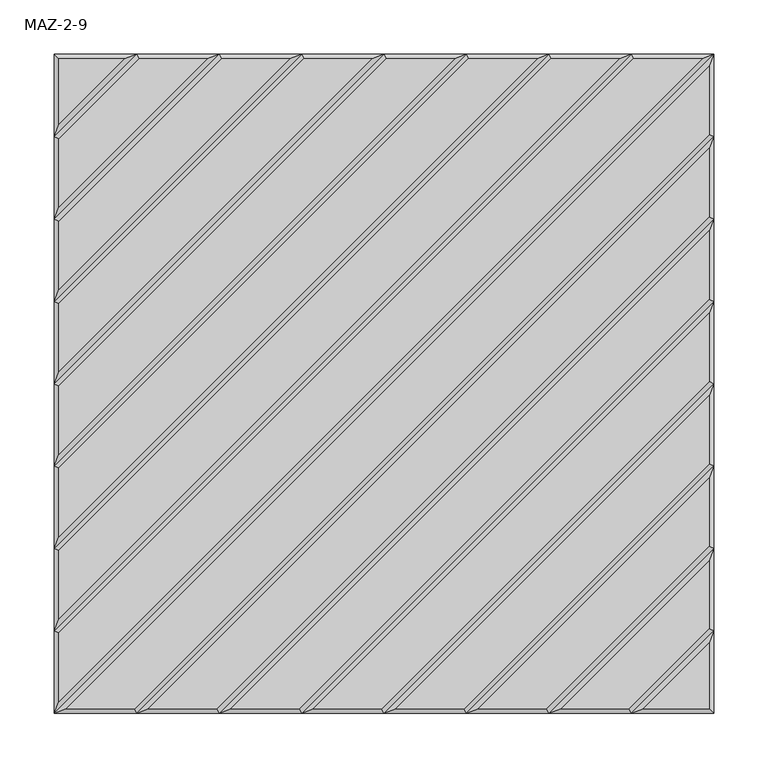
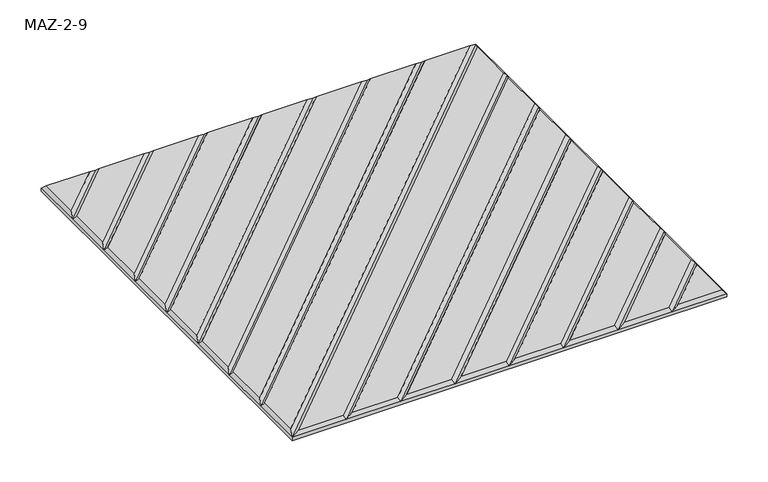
"""IFC4 building model written with IfcOpenShell, lengths in millimetres: proxy geometry, Turf_Wall Tile_Maze : MAZ-2-9."""

from ifc_helpers import new_model, si_unit, origin, place, context, project, spatial, faceted_brep, source, transform, mapped, element, save


def maz_2_9_f5754bbc(model_context):
    return source(origin(), model_context, "Body", "Brep", [
        faceted_brep([(-304.8, 228.6, 10.85), (-304.8, 304.8, 10.85), (-304.8, 304.8, 6.35), (-304.8, -304.8, 6.35), (-304.8, -304.8, 10.85), (-304.8, -228.6, 10.85), (-304.8, -152.4, 10.85), (-304.8, -76.2, 10.85), (-304.8, 0.0, 10.85), (-304.8, 76.2, 10.85), (-304.8, 152.4, 10.85), (228.6, 304.8, 10.85), (304.8, 304.8, 10.85), (304.8, 304.8, 6.35), (-228.6, 304.8, 10.85), (-152.4, 304.8, 10.85), (-76.2, 304.8, 10.85), (0.0, 304.8, 10.85), (76.2, 304.8, 10.85), (152.4, 304.8, 10.85), (300.3, -300.3, 15.35), (300.3, -239.463961, 15.35), (239.463961, -300.3, 15.35), (304.8, -304.8, 6.35), (-300.3, 226.736039, 15.35), (-226.736039, 300.3, 15.35), (-239.463961, 300.3, 15.35), (-300.3, 239.463961, 15.35), (304.8, -228.6, 10.85), (228.6, -304.8, 10.85), (300.3, -226.736039, 15.35), (226.736039, -300.3, 15.35), (-293.936039, -300.3, 15.35), (300.3, 293.936039, 15.35), (217.736039, 300.3, 15.35), (-300.3, -217.736039, 15.35), (152.4, -304.8, 10.85), (304.8, -152.4, 10.85), (300.3, -150.536039, 15.35), (150.536039, -300.3, 15.35), (-300.3, 150.536039, 15.35), (-150.536039, 300.3, 15.35), (-10.863961, 300.3, 15.35), (-300.3, 10.863961, 15.35), (-76.2, -304.8, 10.85), (304.8, 76.2, 10.85), (300.3, 78.063961, 15.35), (-78.063961, -300.3, 15.35), (-152.4, -304.8, 10.85), (304.8, 152.4, 10.85), (300.3, 154.263961, 15.35), (-154.263961, -300.3, 15.35), (163.263961, -300.3, 15.35), (300.3, -163.263961, 15.35), (-300.3, 300.3, 15.35), (-300.3, -293.936039, 15.35), (293.936039, 300.3, 15.35), (230.463961, 300.3, 15.35), (-300.3, -230.463961, 15.35), (154.263961, 300.3, 15.35), (-300.3, -154.263961, 15.35), (300.3, 141.536039, 15.35), (-141.536039, -300.3, 15.35), (78.063961, 300.3, 15.35), (-300.3, -78.063961, 15.35), (-300.3, -141.536039, 15.35), (141.536039, 300.3, 15.35), (-1.863961, -300.3, 15.35), (300.3, 1.863961, 15.35), (300.3, 65.336039, 15.35), (-65.336039, -300.3, 15.35), (1.863961, 300.3, 15.35), (-300.3, -1.863961, 15.35), (-300.3, -65.336039, 15.35), (65.336039, 300.3, 15.35), (-74.336039, 300.3, 15.35), (-300.3, 74.336039, 15.35), (-300.3, 87.063961, 15.35), (-87.063961, 300.3, 15.35), (-300.3, 163.263961, 15.35), (-163.263961, 300.3, 15.35), (74.336039, -300.3, 15.35), (300.3, -74.336039, 15.35), (300.3, -10.863961, 15.35), (10.863961, -300.3, 15.35), (300.3, -87.063961, 15.35), (87.063961, -300.3, 15.35), (300.3, 217.736039, 15.35), (-217.736039, -300.3, 15.35), (-230.463961, -300.3, 15.35), (300.3, 230.463961, 15.35), (304.8, 228.6, 10.85), (-228.6, -304.8, 10.85), (304.8, -76.2, 10.85), (76.2, -304.8, 10.85), (304.8, 0.0, 10.85), (0.0, -304.8, 10.85), (304.8, -304.8, 10.85)], [[[0, 1, 2, 3, 4, 5, 6, 7, 8, 9, 10]], [[11, 12, 13, 2, 1, 14, 15, 16, 17, 18, 19]], [[20, 21, 22]], [[3, 2, 13, 23]], [[14, 0, 24, 25]], [[26, 27, 0, 14]], [[22, 21, 28, 29]], [[29, 28, 30, 31]], [[32, 33, 12, 4]], [[34, 35, 5, 11]], [[36, 37, 38, 39]], [[15, 10, 40, 41]], [[42, 43, 8, 17]], [[44, 45, 46, 47]], [[48, 49, 50, 51]], [[52, 53, 37, 36]], [[54, 27, 26]], [[31, 30, 53, 52]], [[55, 56, 57, 58]], [[59, 60, 35, 34]], [[47, 46, 61, 62]], [[63, 64, 65, 66]], [[67, 68, 69, 70]], [[71, 72, 73, 74]], [[75, 76, 43, 42]], [[41, 40, 77, 78]], [[25, 24, 79, 80]], [[81, 82, 83, 84]], [[39, 38, 85, 86]], [[51, 50, 87, 88]], [[89, 90, 33, 32]], [[56, 55, 4, 12]], [[88, 87, 91, 92]], [[62, 61, 49, 48]], [[66, 65, 6, 19]], [[86, 85, 93, 94]], [[84, 83, 95, 96]], [[94, 93, 82, 81]], [[70, 69, 45, 44]], [[96, 95, 68, 67]], [[80, 79, 10, 15]], [[78, 77, 9, 16]], [[16, 9, 76, 75]], [[74, 73, 7, 18]], [[17, 8, 72, 71]], [[18, 7, 64, 63]], [[19, 6, 60, 59]], [[92, 91, 90, 89]], [[11, 5, 58, 57]], [[97, 23, 13, 12, 91, 49, 45, 95, 93, 37, 28]], [[29, 36, 94, 96, 44, 48, 92, 4, 3, 23, 97]], [[63, 66, 19, 18]], [[14, 25, 80, 15]], [[16, 75, 42, 17]], [[54, 26, 14, 1]], [[74, 18, 17, 71]], [[57, 56, 12, 11]], [[41, 78, 16, 15]], [[34, 11, 19, 59]], [[70, 44, 96, 67]], [[29, 31, 52, 36]], [[48, 51, 88, 92]], [[47, 62, 48, 44]], [[84, 96, 94, 81]], [[32, 4, 92, 89]], [[86, 94, 36, 39]], [[20, 22, 29, 97]], [[0, 27, 54, 1]], [[7, 73, 72, 8]], [[8, 43, 76, 9]], [[40, 10, 9, 77]], [[35, 60, 6, 5]], [[24, 0, 10, 79]], [[6, 65, 64, 7]], [[55, 58, 5, 4]], [[50, 49, 91, 87]], [[90, 91, 12, 33]], [[30, 28, 37, 53]], [[45, 69, 68, 95]], [[61, 46, 45, 49]], [[95, 83, 82, 93]], [[38, 37, 93, 85]], [[21, 20, 97, 28]]]),
    ])


if __name__ == "__main__":
    model = new_model("IFC4")
    model_context = context("Model", 3, world=origin())
    ifc_project = project(units=[si_unit("LENGTHUNIT", "METRE", prefix="MILLI")], contexts=[model_context])
    site = spatial("IfcSite", under=ifc_project)
    building = spatial("IfcBuilding", under=site)
    placement = place(None, origin())
    maz_2_9_shape = maz_2_9_f5754bbc(model_context)
    element("IfcBuildingElementProxy", 1, Name="Turf_Wall Tile_Maze : MAZ-2-9", ObjectType="Turf_Wall Tile_Maze : MAZ-2-9", at=placement, inside=building, context=model_context, shape_type="MappedRepresentation", body=[
        mapped(maz_2_9_shape, transform((0.0, 0.0, 0.0), x_axis=(1.0, 0.0, 0.0), y_axis=(0.0, 1.0, 0.0), z_axis=(0.0, 0.0, 1.0))),
    ])
    save(model, "model.ifc")
